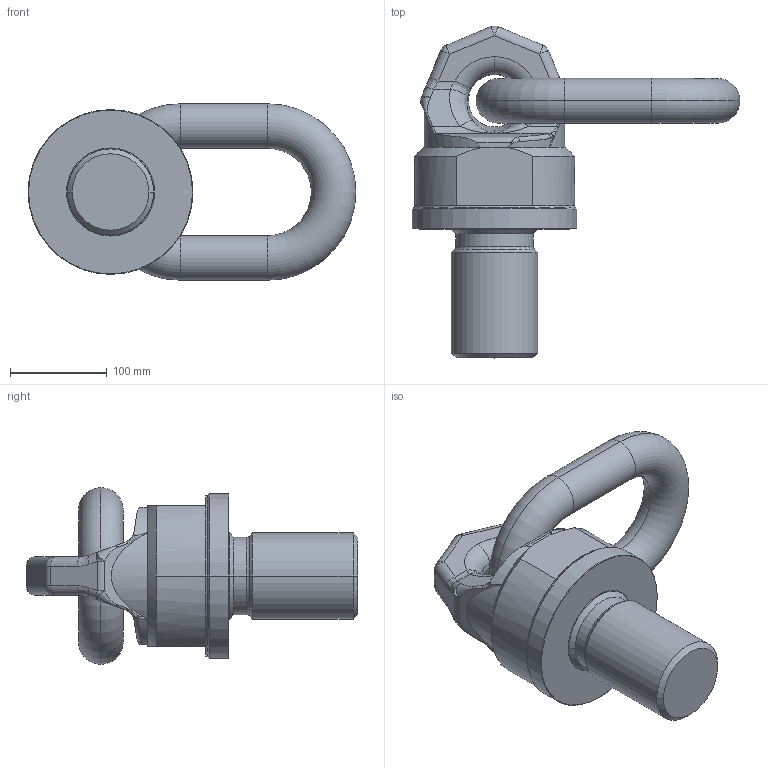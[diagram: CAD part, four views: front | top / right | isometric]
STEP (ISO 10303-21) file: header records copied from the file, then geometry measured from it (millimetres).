
FILE_DESCRIPTION((''),'2;1');
FILE_NAME('001-M33276-P96-90_ASM','2011-05-11T',('Roland.Jakubetz'),(''),'PRO/ENGINEER BY PARAMETRIC TECHNOLOGY CORPORATION, 2010140','PRO/ENGINEER BY PARAMETRIC TECHNOLOGY CORPORATION, 2010140','');
FILE_SCHEMA(('CONFIG_CONTROL_DESIGN'));
Length unit declared in the file: millimetre
Products named in the file (4): 001-M33276-P96; 001-M31356-P91; 001-M31356-P92; 001-M33276-P96-90_ASM
Assembly tree (3 placements, depth 2):
  001-M33276-P96-90_ASM
    001-M33276-P96
    001-M31356-P91
    001-M31356-P92
Bounding box: 338 x 342.25 x 182 mm (x, y, z)
Volume: 4281210.8 mm3; surface area: 279770.7 mm2
Topology: 3 solids, 3 shells, 726 faces, 1966 edges, 1271 vertices
Faces by surface type: plane 587, cylinder 50, bspline 42, cone 20, torus 14, sphere 13
Entity records: 24075 total; most frequent: CARTESIAN_POINT 6000, ORIENTED_EDGE 3932, DIRECTION 3376, EDGE_CURVE 1966, VECTOR 1706, LINE 1706, VERTEX_POINT 1271, AXIS2_PLACEMENT_3D 835
